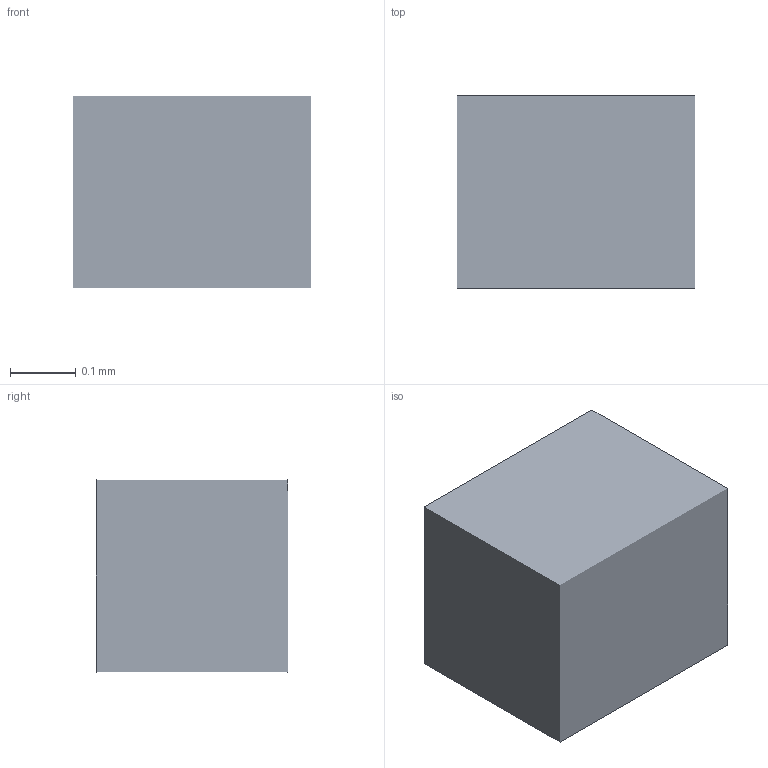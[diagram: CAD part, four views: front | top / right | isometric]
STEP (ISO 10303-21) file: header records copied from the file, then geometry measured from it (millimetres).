
FILE_DESCRIPTION(/* description */ ('STEP AP242 Edition 2','CAx-IF Rec.Pracs.---Representation and Presentation of Product Manufacturing Information (PMI)---4.0---2014-10-13','CAx-IF Rec.Pracs.---3D Tessellated Geometry---0.4---2014-09-14','2;1','CAx-IF Rec.Pracs.---User Defined Attributes---1.5---2016-08-15'),/* implementation_level */ '2;1');
FILE_NAME(/* name */ 'Assembly 1 - Part 67',/* time_stamp */ '2026-03-29T21:14:58Z',/* author */ (''),/* organization */ (''),/* preprocessor_version */ 'ST-DEVELOPER v20',/* originating_system */ 'ONSHAPE BY PTC INC, 1.212',/* authorisation */ ' ');
FILE_SCHEMA (('AP242_MANAGED_MODEL_BASED_3D_ENGINEERING_MIM_LF { 1 0 10303 442 3 1 4 }'));
Length unit declared in the file: metre
Products named in the file (1): Part 67
Bounding box: 0.36 x 0.29 x 0.29 mm (x, y, z)
Surface area: 0.6 mm2 (no closed solid volume)
Topology: 0 solids, 1 shells, 1 faces, 0 edges, 0 vertices
Faces by surface type: other 1
Entity records: 31 total; most frequent: DIRECTION 2, SHAPE_REPRESENTATION_RELATIONSHIP 1, TESSELLATED_SHAPE_REPRESENTATION 1, STYLED_ITEM 1, PRESENTATION_STYLE_ASSIGNMENT 1, SURFACE_STYLE_USAGE 1, SURFACE_SIDE_STYLE 1, SURFACE_STYLE_FILL_AREA 1
